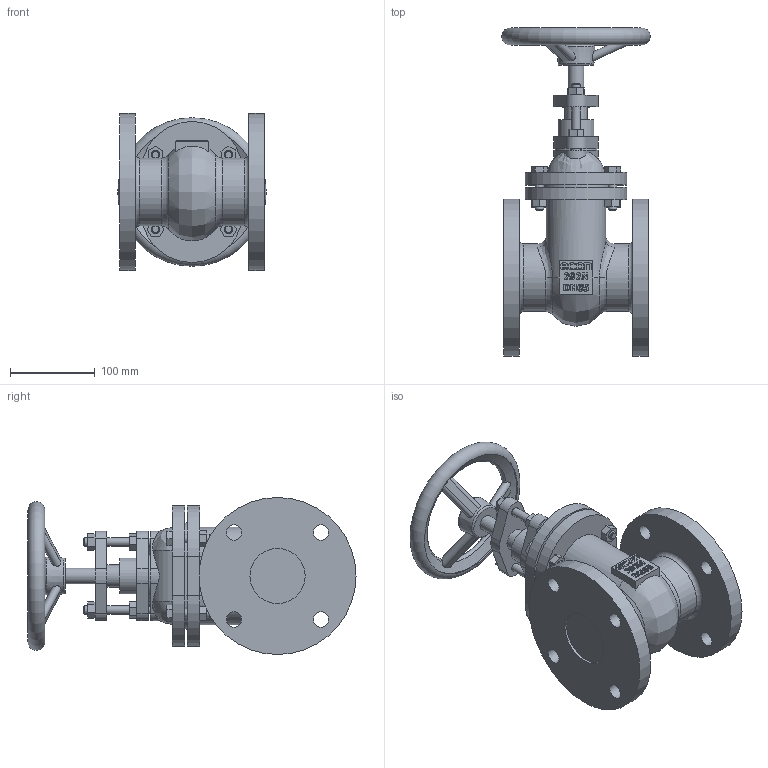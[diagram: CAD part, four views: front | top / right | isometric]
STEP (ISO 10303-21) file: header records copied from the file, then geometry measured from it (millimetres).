
FILE_DESCRIPTION(/* description */ (''),/* implementation_level */ '2;1');
FILE_NAME(/* name */ '292NOD-DN65-PN16 - 11810875.stp',/* time_stamp */ '2024-06-21T07:16:03+02:00',/* author */ ('roger.thijssen'),/* organization */ (''),/* preprocessor_version */ 'ST-DEVELOPER v20',/* originating_system */ 'Autodesk Inventor 2024',/* authorisation */ '');
FILE_SCHEMA (('AUTOMOTIVE_DESIGN { 1 0 10303 214 3 1 1 }'));
Length unit declared in the file: millimetre
Products named in the file (1): 292NOD-DN65-PN16 - 11810875
Bounding box: 175 x 386.5 x 185 mm (x, y, z)
Volume: 3235882.3 mm3; surface area: 313799 mm2
Topology: 1 solids, 1 shells, 428 faces, 1142 edges, 756 vertices
Faces by surface type: plane 242, bspline 88, cylinder 77, torus 12, cone 9
Full cylindrical faces by diameter (mm): 10 x14, 18 x9, 26 x1, 42 x1, 50 x1, 65 x2, 80 x2, 155 x2, 185 x2
Entity records: 15238 total; most frequent: CARTESIAN_POINT 4478, ORIENTED_EDGE 2276, DIRECTION 1800, EDGE_CURVE 1138, VERTEX_POINT 756, LINE 712, VECTOR 712, AXIS2_PLACEMENT_3D 544
